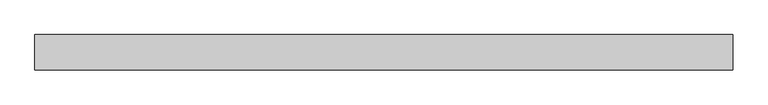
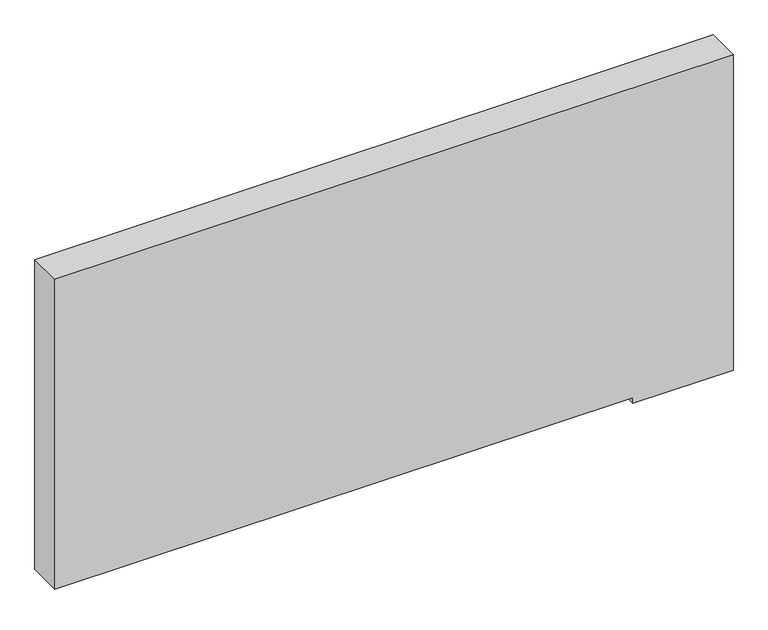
"""IFC4 building model written with IfcOpenShell, lengths in millimetres: plate geometry, Системная панель : Алюкобонд серый."""

import ifcopenshell
import ifcopenshell.guid

model = None  # the IFC model being written
_history = None  # IfcOwnerHistory: only IFC2X3 demands one
_inside = {}  # id of a spatial element -> (the spatial element, [elements in it])
_under = {}  # id of a project, library or spatial element -> (it, [spatial elements below it])
_declared = {}  # id of a project -> (the project, [libraries it declares])
_typed = {}  # id of a type object -> (the type object, [elements of that type])
_made_of = {}  # id of a material, layer set ... -> (it, [elements and type objects made of it])


def new_model(schema):
    """Start an empty IFC model of exactly this schema.

    Asked for "IFC4X3", IfcOpenShell would pick the latest addendum, in which some entities
    have other attributes; the version numbers below select the first issue.
    IFC2X3 requires an IfcOwnerHistory on every rooted entity: one is made here for all.
    """
    global model, _history
    if schema == "IFC4X3":
        model = ifcopenshell.file(schema_version=(4, 3, 0, 0))
    else:
        model = ifcopenshell.file(schema=schema)
    _inside.clear()
    _under.clear()
    _declared.clear()
    _typed.clear()
    _made_of.clear()
    _history = None
    if model.schema == "IFC2X3":
        org = make("IfcOrganization", Name="unknown")
        user = make(
            "IfcPersonAndOrganization",
            ThePerson=make("IfcPerson", FamilyName="unknown"),
            TheOrganization=org,
        )
        app = make(
            "IfcApplication",
            ApplicationDeveloper=org,
            Version="unknown",
            ApplicationFullName="unknown",
            ApplicationIdentifier="unknown",
        )
        _history = make(
            "IfcOwnerHistory",
            OwningUser=user,
            OwningApplication=app,
            ChangeAction="ADDED",
            CreationDate=0,
        )
    return model


def make(cls, **values):
    """One entity of the class cls with the attributes given. An attribute that is None is left unset."""
    return model.create_entity(
        cls, **{name: value for name, value in values.items() if value is not None}
    )


def rooted(cls, **values):
    """An entity with a GlobalId (a new one), such as an element, a storey or a relation."""
    return make(cls, GlobalId=ifcopenshell.guid.new(), OwnerHistory=_history, **values)


def si_unit(unit_type, name, prefix=None):
    """IfcSIUnit, for example si_unit("LENGTHUNIT", "METRE", prefix="MILLI")."""
    return make("IfcSIUnit", UnitType=unit_type, Prefix=prefix, Name=name)


def assignment(units):
    """IfcUnitAssignment: the units of a project."""
    return None if units is None else make("IfcUnitAssignment", Units=units)


def point(xyz):
    """IfcCartesianPoint."""
    return None if xyz is None else make("IfcCartesianPoint", Coordinates=xyz)


def direction(xyz):
    """IfcDirection."""
    return None if xyz is None else make("IfcDirection", DirectionRatios=xyz)


def frame(location, z_axis=None, x_axis=None):
    """IfcAxis2Placement3D, a coordinate frame: its origin and axes. An axis left out is left unset."""
    return make(
        "IfcAxis2Placement3D",
        Location=point(location),
        Axis=direction(z_axis),
        RefDirection=direction(x_axis),
    )


def origin():
    """The frame at (0, 0, 0) with its axes left unset."""
    return frame((0.0, 0.0, 0.0))


def place(relative_to, where):
    """IfcLocalPlacement: puts the frame where relative to a parent placement (None: the world)."""
    return make(
        "IfcLocalPlacement", PlacementRelTo=relative_to, RelativePlacement=where
    )


def context(
    kind, dimensions, precision=None, world=None, true_north=None, identifier=None
):
    """IfcGeometricRepresentationContext, for example the 3D "Model" context."""
    return make(
        "IfcGeometricRepresentationContext",
        ContextIdentifier=identifier,
        ContextType=kind,
        CoordinateSpaceDimension=dimensions,
        Precision=precision,
        WorldCoordinateSystem=world,
        TrueNorth=true_north,
    )


def project(units=None, contexts=None):
    """IfcProject with its units and contexts."""
    return rooted(
        "IfcProject",
        Name="project",
        RepresentationContexts=contexts,
        UnitsInContext=assignment(units),
    )


def spatial(cls, under=None, at=None, **own):
    """A site, building, storey or space (cls), placed at a placement, below another one or the project."""
    s = rooted(cls, ObjectPlacement=at, **own)
    if under is not None:
        _under.setdefault(under.id(), (under, []))[1].append(s)
    return s


def polyline(points):
    """IfcPolyline through the points."""
    return make("IfcPolyline", Points=[point(p) for p in points])


def outline(outer, holes=None, kind="AREA"):
    """IfcArbitraryClosedProfileDef: a profile drawn as a closed curve; with holes, ...WithVoids."""
    if holes is None:
        return make("IfcArbitraryClosedProfileDef", ProfileType=kind, OuterCurve=outer)
    return make(
        "IfcArbitraryProfileDefWithVoids",
        ProfileType=kind,
        OuterCurve=outer,
        InnerCurves=holes,
    )


def extrude(swept, where, along, depth):
    """IfcExtrudedAreaSolid: the profile swept, set in the frame where, extruded along a direction by depth."""
    return make(
        "IfcExtrudedAreaSolid",
        SweptArea=swept,
        Position=where,
        ExtrudedDirection=direction(along),
        Depth=depth,
    )


def shape(context_of_items, identifier, shape_type, items):
    """IfcShapeRepresentation: the items that make up one representation, for example the "Body"."""
    return make(
        "IfcShapeRepresentation",
        ContextOfItems=context_of_items,
        RepresentationIdentifier=identifier,
        RepresentationType=shape_type,
        Items=items,
    )


def source(mapping_origin, context_of_items, identifier, shape_type, items):
    """IfcRepresentationMap: a shape defined once, which mapped items show again and again."""
    return make(
        "IfcRepresentationMap",
        MappingOrigin=mapping_origin,
        MappedRepresentation=shape(context_of_items, identifier, shape_type, items),
    )


def transform(
    local_origin,
    x_axis=None,
    y_axis=None,
    z_axis=None,
    scale=None,
    scale2=None,
    scale3=None,
    uniform=True,
):
    """IfcCartesianTransformationOperator3D, or its non-uniform kind. x_axis, y_axis, z_axis: its Axis1, 2, 3."""
    if uniform:
        return make(
            "IfcCartesianTransformationOperator3D",
            Axis1=direction(x_axis),
            Axis2=direction(y_axis),
            LocalOrigin=point(local_origin),
            Scale=scale,
            Axis3=direction(z_axis),
        )
    return make(
        "IfcCartesianTransformationOperator3DnonUniform",
        Axis1=direction(x_axis),
        Axis2=direction(y_axis),
        LocalOrigin=point(local_origin),
        Scale=scale,
        Axis3=direction(z_axis),
        Scale2=scale2,
        Scale3=scale3,
    )


def mapped(mapping_source, mapping_target):
    """IfcMappedItem: shows the shape of a source again, moved by a transform."""
    return make(
        "IfcMappedItem", MappingSource=mapping_source, MappingTarget=mapping_target
    )


def made_of(thing, what):
    """Note that an element or type object is made of a material, layer set ...; save() writes the relation."""
    if what is not None:
        _made_of.setdefault(what.id(), (what, []))[1].append(thing)
    return thing


def element(
    cls,
    number,
    at=None,
    inside=None,
    cuts=None,
    type_object=None,
    material=None,
    context=None,
    identifier="Body",
    shape_type=None,
    held_by="IfcProductDefinitionShape",
    body=None,
    shapes=None,
    **own,
):
    """One element of the class cls, such as IfcWall. Its Tag is "e" and its number.

    at: its placement. inside: the storey or other place that contains it. cuts: it is an
    opening in that element (IfcRelVoidsElement). A single representation is given by context,
    identifier, shape_type and body (its items); several are given by shapes. held_by: the class
    of the entity that holds the representations. save() writes the other relations.
    """
    e = rooted(cls, Tag="e%d" % number, ObjectPlacement=at, **own)
    if body is not None:
        shapes = [shape(context, identifier, shape_type, body)]
    if shapes is not None:
        e.Representation = make(held_by, Representations=shapes)
    if inside is not None:
        _inside.setdefault(inside.id(), (inside, []))[1].append(e)
    if cuts is not None:
        rooted(
            "IfcRelVoidsElement", RelatingBuildingElement=cuts, RelatedOpeningElement=e
        )
    if type_object is not None:
        _typed.setdefault(type_object.id(), (type_object, []))[1].append(e)
    return made_of(e, material)


def aggregate(whole, parts):
    """IfcRelAggregates: a whole, such as a stair, and the parts it consists of."""
    return rooted("IfcRelAggregates", RelatingObject=whole, RelatedObjects=parts)


def save(model, path):
    """Write the relations noted so far, then the file.

    IfcRelAggregates (storeys below a building ...), IfcRelContainedInSpatialStructure (elements
    in a storey), IfcRelDefinesByType, IfcRelAssociatesMaterial and IfcRelDeclares: one each for
    every whole, place, type object, material and project.
    """
    for whole, parts in _under.values():
        aggregate(whole, parts)
    for where, things in _inside.values():
        rooted(
            "IfcRelContainedInSpatialStructure",
            RelatedElements=things,
            RelatingStructure=where,
        )
    for kind, things in _typed.values():
        rooted("IfcRelDefinesByType", RelatedObjects=things, RelatingType=kind)
    for what, things in _made_of.values():
        rooted("IfcRelAssociatesMaterial", RelatedObjects=things, RelatingMaterial=what)
    for by, libraries in _declared.values():
        rooted("IfcRelDeclares", RelatingContext=by, RelatedDefinitions=libraries)
    model.write(path)


def plate_bee7bbb1(model_context):
    return source(origin(), model_context, "Body", "SweptSolid", [
        extrude(outline(polyline([(0.0, 415.424264), (0.0, 590.0), (580.0, 590.0), (580.0, -590.0), (10.0, -590.0), (10.0, 415.424264), (0.0, 415.424264)])), frame((0.0, -10.5, 0.0), z_axis=(0.0, 1.0, 0.0), x_axis=(0.0, 0.0, 1.0)), (0.0, 0.0, 1.0), 60.0),
    ])


if __name__ == "__main__":
    model = new_model("IFC4")
    model_context = context("Model", 3, world=origin())
    ifc_project = project(units=[si_unit("LENGTHUNIT", "METRE", prefix="MILLI")], contexts=[model_context])
    site = spatial("IfcSite", under=ifc_project)
    building = spatial("IfcBuilding", under=site)
    placement = place(None, origin())
    plate_shape = plate_bee7bbb1(model_context)
    element("IfcPlate", 1, ObjectType="Системная панель : Алюкобонд серый", at=placement, inside=building, context=model_context, shape_type="MappedRepresentation", body=[
        mapped(plate_shape, transform((0.0, 0.0, 0.0), x_axis=(1.0, 0.0, 0.0), y_axis=(0.0, 1.0, 0.0), z_axis=(0.0, 0.0, 1.0))),
    ])
    save(model, "model.ifc")
